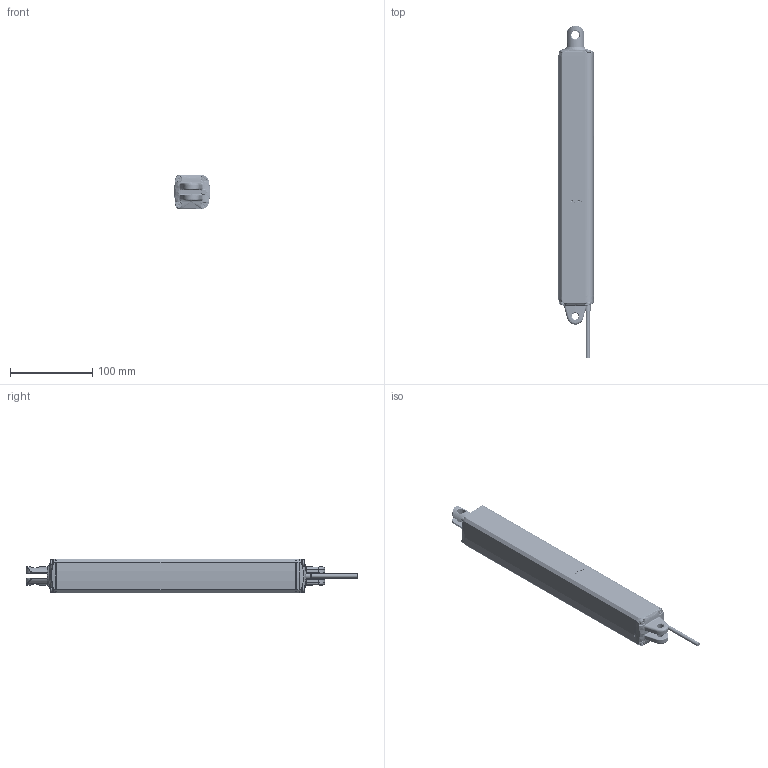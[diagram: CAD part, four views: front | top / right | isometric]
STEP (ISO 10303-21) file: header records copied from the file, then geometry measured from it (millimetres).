
FILE_DESCRIPTION (( 'STEP AP203' ), '1' );
FILE_NAME ('3D_VN3.STEP', '2023-08-04T03:51:27', ( '' ), ( '' ), 'SwSTEP 2.0', 'SolidWorks 2015', '' );
FILE_SCHEMA (( 'CONFIG_CONTROL_DESIGN' ));
Length unit declared in the file: inch
Products named in the file (2): 3D_VN3
Bounding box: 43 x 403.25 x 41 mm (x, y, z)
Volume: 148324 mm3; surface area: 162795.2 mm2
Topology: 32 solids, 32 shells, 2569 faces, 6896 edges, 4393 vertices
Faces by surface type: cylinder 1073, plane 630, bspline 494, cone 240, torus 118, sphere 14
Entity records: 169051 total; most frequent: CARTESIAN_POINT 111348, ORIENTED_EDGE 13724, DIRECTION 10156, EDGE_CURVE 6862, VERTEX_POINT 4393, AXIS2_PLACEMENT_3D 3914, EDGE_LOOP 2737, FACE_OUTER_BOUND 2569
